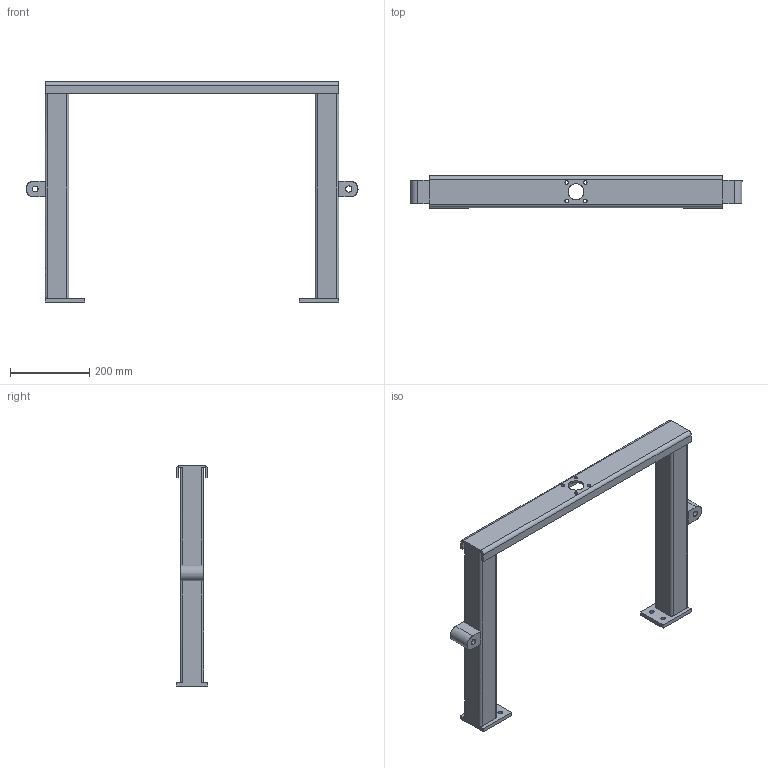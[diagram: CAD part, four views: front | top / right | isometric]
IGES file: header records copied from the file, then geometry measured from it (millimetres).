
Start section: SolidWorks IGES FILE using analytic representation for surfaces
Global section: file name: 37.IGS; native system: SolidWorks 2003 by SolidWorks Corporation; preprocessor: Version 5.3; author: sujet; date: 040213.102539; units: millimetre
Bounding box: 836 x 80 x 555 mm (x, y, z)
Surface area: 487900.2 mm2 (no closed solid volume)
Topology: 0 solids, 0 shells, 76 faces, 1444 edges, 1444 vertices
Faces by surface type: bspline 40, revolution 36
